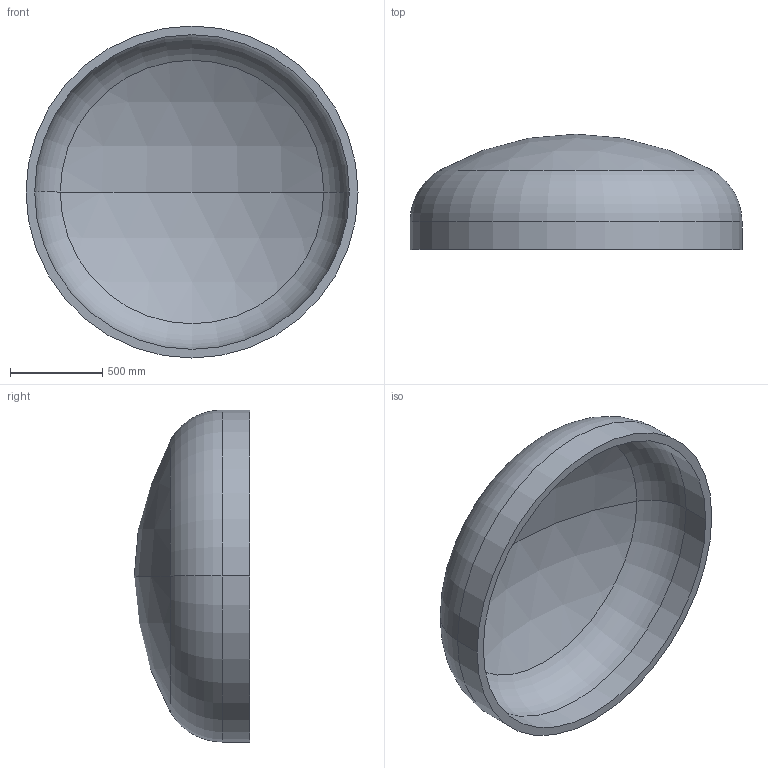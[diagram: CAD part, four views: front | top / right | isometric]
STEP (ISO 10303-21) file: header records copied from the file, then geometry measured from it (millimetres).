
FILE_DESCRIPTION (( 'STEP AP203' ), '1' );
FILE_NAME ('DIN 28013 Korbbogenform_-_Boden DIN 28013 - 1800 x 150 - I - s=47.step', '2016-07-01T12:32:41', ( '' ), ( '' ), 'SwSTEP 2.0', 'SolidWorks 2013', '' );
FILE_SCHEMA (( 'CONFIG_CONTROL_DESIGN' ));
Length unit declared in the file: millimetre
Products named in the file (1): DIN 28013 Korbbogenform_-_Boden DIN 28013 - 1800 x 150 - I - s=47
Bounding box: 1800 x 625.5 x 1800 mm (x, y, z)
Volume: 198644547.9 mm3; surface area: 8716422.5 mm2
Topology: 1 solids, 1 shells, 13 faces, 24 edges, 14 vertices
Faces by surface type: torus 4, cylinder 4, sphere 4, plane 1
Entity records: 407 total; most frequent: DIRECTION 72, CARTESIAN_POINT 52, ORIENTED_EDGE 48, AXIS2_PLACEMENT_3D 34, EDGE_CURVE 24, CIRCLE 20, VERTEX_POINT 14, EDGE_LOOP 14
